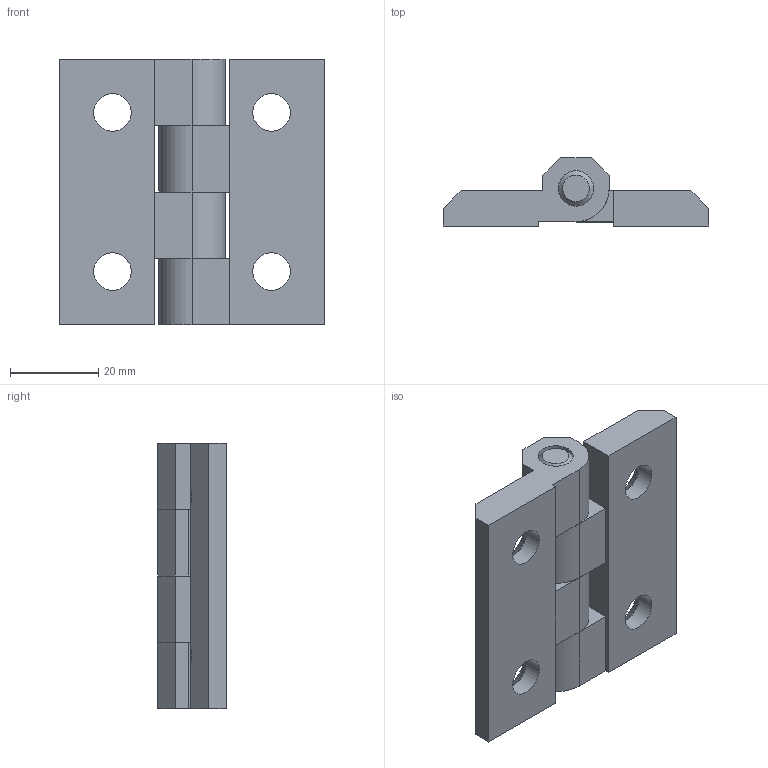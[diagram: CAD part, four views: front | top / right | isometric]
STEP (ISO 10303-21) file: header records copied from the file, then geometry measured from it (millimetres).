
FILE_DESCRIPTION((''),'2;1');
FILE_NAME('E:\UPS\Accessories\ACC\ACC-MH\ACC-MH95009.stp','2015-10-27T11:00:35',('h029'),(''),'Autodesk Inventor 11','Autodesk Inventor 11','');
FILE_SCHEMA(('AUTOMOTIVE_DESIGN { 1 0 10303 214 1 1 1 1 }'));
Length unit declared in the file: millimetre
Products named in the file (3): ACC-MH095009; pin; side pcs
Assembly tree (3 placements, depth 2):
  ACC-MH095009
    pin
    side pcs  x2
Bounding box: 60 x 15.5 x 60 mm (x, y, z)
Volume: 28504.3 mm3; surface area: 14286.5 mm2
Topology: 3 solids, 3 shells, 65 faces, 187 edges, 124 vertices
Faces by surface type: plane 46, cylinder 9, bspline 8, cone 2
Full cylindrical faces by diameter (mm): 8 x5
Entity records: 1184 total; most frequent: CARTESIAN_POINT 257, DIRECTION 174, ORIENTED_EDGE 168, EDGE_CURVE 84, VECTOR 64, LINE 64, VERTEX_POINT 60, AXIS2_PLACEMENT_3D 55
